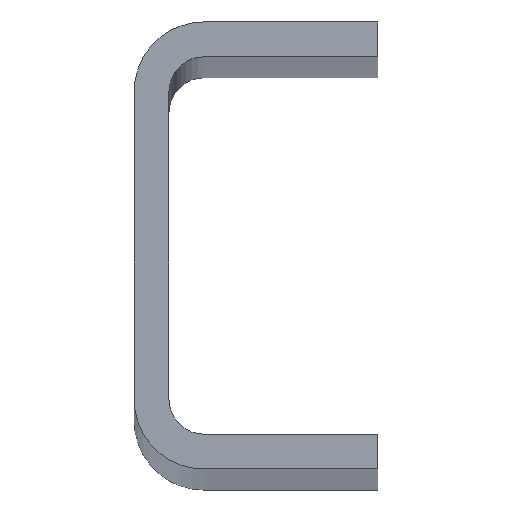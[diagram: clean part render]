
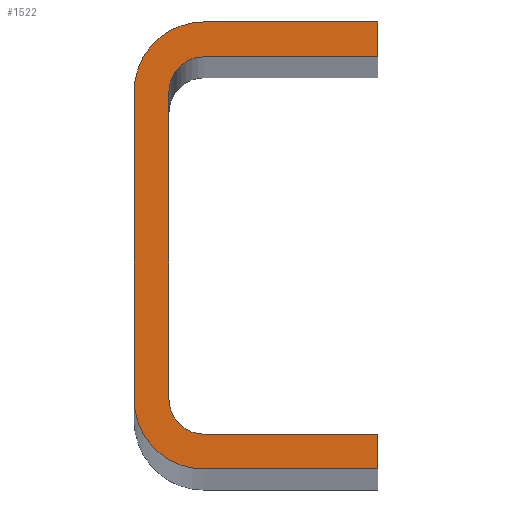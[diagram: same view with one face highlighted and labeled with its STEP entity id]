
A CAD part, top view. The second image highlights one B-rep face of the part: STEP entity #1522.
In plain terms, the highlighted planar face has unit normal (0, 0, 1).
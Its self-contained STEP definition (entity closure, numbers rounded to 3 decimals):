
#67 = DIRECTION ( 'NONE',  ( -1., 0., 0. ) ) ;
#83 = EDGE_CURVE ( 'NONE', #2775, #1528, #1138, .T. ) ;
#87 = CARTESIAN_POINT ( 'NONE',  ( 6., -13.25, 0. ) ) ;
#101 = VERTEX_POINT ( 'NONE', #468 ) ;
#124 = EDGE_CURVE ( 'NONE', #214, #739, #1367, .T. ) ;
#134 = VERTEX_POINT ( 'NONE', #493 ) ;
#146 = CARTESIAN_POINT ( 'NONE',  ( 6., 19.25, 0. ) ) ;
#154 = EDGE_CURVE ( 'NONE', #1528, #134, #2188, .T. ) ;
#170 = DIRECTION ( 'NONE',  ( 0., -1., 0. ) ) ;
#214 = VERTEX_POINT ( 'NONE', #2468 ) ;
#301 = CARTESIAN_POINT ( 'NONE',  ( 6., -16.25, 0. ) ) ;
#308 = DIRECTION ( 'NONE',  ( 0., 0., 1. ) ) ;
#329 = DIRECTION ( 'NONE',  ( 0., 1., 0. ) ) ;
#351 = CARTESIAN_POINT ( 'NONE',  ( 21., 19.25, 0. ) ) ;
#356 = CARTESIAN_POINT ( 'NONE',  ( 3., 13.25, 0. ) ) ;
#397 = EDGE_CURVE ( 'NONE', #2107, #1793, #2535, .T. ) ;
#416 = ORIENTED_EDGE ( 'NONE', *, *, #2689, .T. ) ;
#468 = CARTESIAN_POINT ( 'NONE',  ( 3., -13.25, 0. ) ) ;
#493 = CARTESIAN_POINT ( 'NONE',  ( 21., 16.25, 0. ) ) ;
#532 = ORIENTED_EDGE ( 'NONE', *, *, #124, .T. ) ;
#545 = EDGE_LOOP ( 'NONE', ( #2237, #1495, #2540, #2641, #416, #2377, #1545, #1559, #866, #972, #532, #1917 ) ) ;
#566 = LINE ( 'NONE', #2070, #1530 ) ;
#613 = DIRECTION ( 'NONE',  ( 1., 0., 0. ) ) ;
#686 = DIRECTION ( 'NONE',  ( 0., 0., -1. ) ) ;
#700 = DIRECTION ( 'NONE',  ( 0., 1., 0. ) ) ;
#703 = DIRECTION ( 'NONE',  ( -1., 0., 0. ) ) ;
#739 = VERTEX_POINT ( 'NONE', #916 ) ;
#746 = DIRECTION ( 'NONE',  ( 0., 0., -1. ) ) ;
#791 = CARTESIAN_POINT ( 'NONE',  ( 21., -16.25, 0. ) ) ;
#817 = DIRECTION ( 'NONE',  ( -1., 0., 0. ) ) ;
#831 = CARTESIAN_POINT ( 'NONE',  ( 6., 13.25, 0. ) ) ;
#866 = ORIENTED_EDGE ( 'NONE', *, *, #1317, .T. ) ;
#889 = DIRECTION ( 'NONE',  ( 1., 0., 0. ) ) ;
#915 = EDGE_CURVE ( 'NONE', #739, #1616, #989, .T. ) ;
#916 = CARTESIAN_POINT ( 'NONE',  ( 21., -16.25, 0. ) ) ;
#927 = DIRECTION ( 'NONE',  ( 0., 1., 0. ) ) ;
#948 = EDGE_CURVE ( 'NONE', #2117, #2107, #2099, .T. ) ;
#972 = ORIENTED_EDGE ( 'NONE', *, *, #1532, .T. ) ;
#989 = LINE ( 'NONE', #791, #1091 ) ;
#1009 = VECTOR ( 'NONE', #170, 1000. ) ;
#1014 = CARTESIAN_POINT ( 'NONE',  ( 0., -13.25, 0. ) ) ;
#1051 = VECTOR ( 'NONE', #889, 1000. ) ;
#1091 = VECTOR ( 'NONE', #817, 1000. ) ;
#1097 = CARTESIAN_POINT ( 'NONE',  ( 6., -13.25, 0. ) ) ;
#1138 = CIRCLE ( 'NONE', #1413, 3. ) ;
#1160 = DIRECTION ( 'NONE',  ( 1., 0., 0. ) ) ;
#1165 = DIRECTION ( 'NONE',  ( 0., 0., -1. ) ) ;
#1181 = CARTESIAN_POINT ( 'NONE',  ( 6., 16.25, 0. ) ) ;
#1190 = CARTESIAN_POINT ( 'NONE',  ( 6., -13.25, 0. ) ) ;
#1234 = VECTOR ( 'NONE', #2022, 1000. ) ;
#1277 = CIRCLE ( 'NONE', #2264, 6. ) ;
#1317 = EDGE_CURVE ( 'NONE', #2289, #2408, #1277, .T. ) ;
#1362 = CIRCLE ( 'NONE', #1767, 3. ) ;
#1367 = LINE ( 'NONE', #2456, #1497 ) ;
#1380 = EDGE_CURVE ( 'NONE', #1616, #101, #1362, .T. ) ;
#1413 = AXIS2_PLACEMENT_3D ( 'NONE', #1595, #686, #67 ) ;
#1495 = ORIENTED_EDGE ( 'NONE', *, *, #2638, .T. ) ;
#1497 = VECTOR ( 'NONE', #700, 1000. ) ;
#1522 = ADVANCED_FACE ( 'NONE', ( #2594 ), #2168, .F. ) ;
#1528 = VERTEX_POINT ( 'NONE', #1181 ) ;
#1530 = VECTOR ( 'NONE', #329, 1000. ) ;
#1532 = EDGE_CURVE ( 'NONE', #2408, #214, #2703, .T. ) ;
#1545 = ORIENTED_EDGE ( 'NONE', *, *, #397, .T. ) ;
#1559 = ORIENTED_EDGE ( 'NONE', *, *, #2280, .T. ) ;
#1564 = CARTESIAN_POINT ( 'NONE',  ( 6., 16.25, 0. ) ) ;
#1593 = LINE ( 'NONE', #1969, #2653 ) ;
#1595 = CARTESIAN_POINT ( 'NONE',  ( 6., 13.25, 0. ) ) ;
#1616 = VERTEX_POINT ( 'NONE', #301 ) ;
#1662 = LINE ( 'NONE', #2560, #1009 ) ;
#1678 = AXIS2_PLACEMENT_3D ( 'NONE', #1097, #1165, #2056 ) ;
#1688 = DIRECTION ( 'NONE',  ( 0., 0., 1. ) ) ;
#1713 = CARTESIAN_POINT ( 'NONE',  ( 0., 13.25, 0. ) ) ;
#1767 = AXIS2_PLACEMENT_3D ( 'NONE', #87, #746, #703 ) ;
#1793 = VERTEX_POINT ( 'NONE', #1713 ) ;
#1809 = VECTOR ( 'NONE', #2501, 1000. ) ;
#1917 = ORIENTED_EDGE ( 'NONE', *, *, #915, .T. ) ;
#1969 = CARTESIAN_POINT ( 'NONE',  ( 3., -13.25, 0. ) ) ;
#2022 = DIRECTION ( 'NONE',  ( 1., 0., 0. ) ) ;
#2056 = DIRECTION ( 'NONE',  ( -1., 0., 0. ) ) ;
#2070 = CARTESIAN_POINT ( 'NONE',  ( 21., 16.25, 0. ) ) ;
#2099 = LINE ( 'NONE', #2534, #1809 ) ;
#2107 = VERTEX_POINT ( 'NONE', #146 ) ;
#2111 = CARTESIAN_POINT ( 'NONE',  ( 6., -19.25, 0. ) ) ;
#2117 = VERTEX_POINT ( 'NONE', #351 ) ;
#2168 = PLANE ( 'NONE',  #1678 ) ;
#2188 = LINE ( 'NONE', #1564, #1051 ) ;
#2217 = AXIS2_PLACEMENT_3D ( 'NONE', #831, #1688, #613 ) ;
#2237 = ORIENTED_EDGE ( 'NONE', *, *, #1380, .T. ) ;
#2264 = AXIS2_PLACEMENT_3D ( 'NONE', #1190, #308, #1160 ) ;
#2265 = CARTESIAN_POINT ( 'NONE',  ( 6., -19.25, 0. ) ) ;
#2280 = EDGE_CURVE ( 'NONE', #1793, #2289, #1662, .T. ) ;
#2289 = VERTEX_POINT ( 'NONE', #1014 ) ;
#2377 = ORIENTED_EDGE ( 'NONE', *, *, #948, .T. ) ;
#2408 = VERTEX_POINT ( 'NONE', #2111 ) ;
#2456 = CARTESIAN_POINT ( 'NONE',  ( 21., -19.25, 0. ) ) ;
#2468 = CARTESIAN_POINT ( 'NONE',  ( 21., -19.25, 0. ) ) ;
#2501 = DIRECTION ( 'NONE',  ( -1., 0., 0. ) ) ;
#2534 = CARTESIAN_POINT ( 'NONE',  ( 21., 19.25, 0. ) ) ;
#2535 = CIRCLE ( 'NONE', #2217, 6. ) ;
#2540 = ORIENTED_EDGE ( 'NONE', *, *, #83, .T. ) ;
#2560 = CARTESIAN_POINT ( 'NONE',  ( 0., 0., 0. ) ) ;
#2594 = FACE_OUTER_BOUND ( 'NONE', #545, .T. ) ;
#2638 = EDGE_CURVE ( 'NONE', #101, #2775, #1593, .T. ) ;
#2641 = ORIENTED_EDGE ( 'NONE', *, *, #154, .T. ) ;
#2653 = VECTOR ( 'NONE', #927, 1000. ) ;
#2689 = EDGE_CURVE ( 'NONE', #134, #2117, #566, .T. ) ;
#2703 = LINE ( 'NONE', #2265, #1234 ) ;
#2775 = VERTEX_POINT ( 'NONE', #356 ) ;
